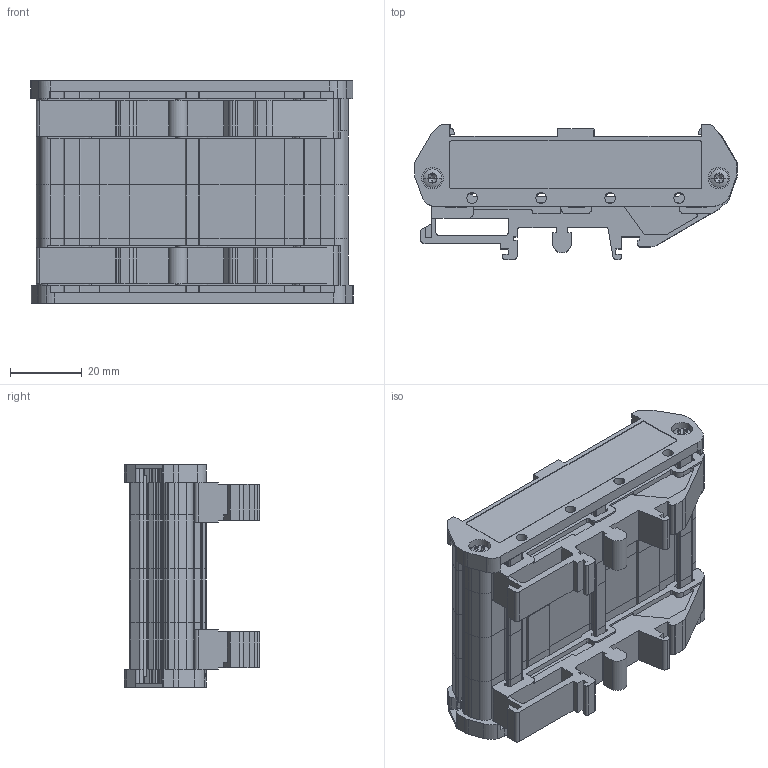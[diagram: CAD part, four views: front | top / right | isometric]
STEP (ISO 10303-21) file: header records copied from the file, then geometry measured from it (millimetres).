
FILE_DESCRIPTION(('FreeCAD Model'),'2;1');
FILE_NAME('C:/Users/Tino Hellberg/works/kiskopohjat/EM-KP72-59.step', '2019-11-12T12:27:41',('Author'),(''), 'Open CASCADE STEP processor 7.3','FreeCAD','Unknown');
FILE_SCHEMA(('AUTOMOTIVE_DESIGN { 1 0 10303 214 1 1 1 1 }'));
Length unit declared in the file: millimetre
Products named in the file (9): Cut; UM_72-FE_H.Select__00359177; Schr.Lins._3x14-Z_01151121; Schr.Lins._3x14-Z_01151120; UM_72-SE_H.Select__00461501; UM_72-SE_H.Select__00276902; Schr.Lins._3x14-Z_01151118; Schr.Lins._3x14-Z_01151119; UM_72-FE_H.Select__00359175
Bounding box: 89.82 x 37.6 x 62 mm (x, y, z)
Volume: 40724.2 mm3; surface area: 41161.9 mm2
Topology: 9 solids, 9 shells, 1838 faces, 4900 edges, 3080 vertices
Faces by surface type: plane 1030, cylinder 746, cone 36, bspline 10, sphere 8, torus 8
Entity records: 189133 total; most frequent: CARTESIAN_POINT 92139, DIRECTION 18003, LINE 11223, VECTOR 11223, ORIENTED_EDGE 9784, PCURVE 9784, DEFINITIONAL_REPRESENTATION 9784, EDGE_CURVE 4892
